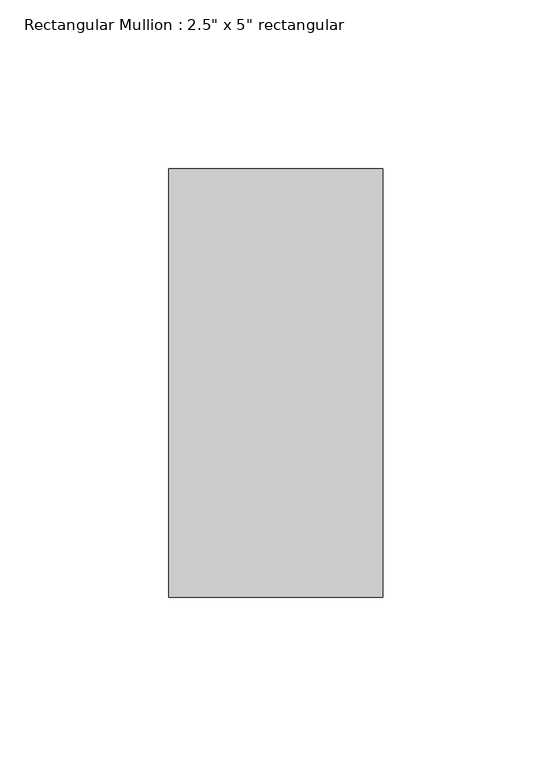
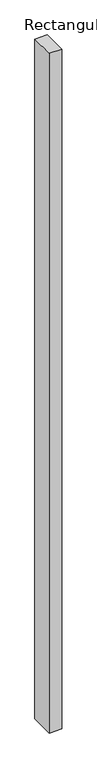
"""IFC4 building model written with IfcOpenShell, lengths in millimetres: member geometry."""

import ifcopenshell
import ifcopenshell.guid

model = None  # the IFC model being written
_history = None  # IfcOwnerHistory: only IFC2X3 demands one
_inside = {}  # id of a spatial element -> (the spatial element, [elements in it])
_under = {}  # id of a project, library or spatial element -> (it, [spatial elements below it])
_declared = {}  # id of a project -> (the project, [libraries it declares])
_typed = {}  # id of a type object -> (the type object, [elements of that type])
_made_of = {}  # id of a material, layer set ... -> (it, [elements and type objects made of it])


def new_model(schema):
    """Start an empty IFC model of exactly this schema.

    Asked for "IFC4X3", IfcOpenShell would pick the latest addendum, in which some entities
    have other attributes; the version numbers below select the first issue.
    IFC2X3 requires an IfcOwnerHistory on every rooted entity: one is made here for all.
    """
    global model, _history
    if schema == "IFC4X3":
        model = ifcopenshell.file(schema_version=(4, 3, 0, 0))
    else:
        model = ifcopenshell.file(schema=schema)
    _inside.clear()
    _under.clear()
    _declared.clear()
    _typed.clear()
    _made_of.clear()
    _history = None
    if model.schema == "IFC2X3":
        org = make("IfcOrganization", Name="unknown")
        user = make(
            "IfcPersonAndOrganization",
            ThePerson=make("IfcPerson", FamilyName="unknown"),
            TheOrganization=org,
        )
        app = make(
            "IfcApplication",
            ApplicationDeveloper=org,
            Version="unknown",
            ApplicationFullName="unknown",
            ApplicationIdentifier="unknown",
        )
        _history = make(
            "IfcOwnerHistory",
            OwningUser=user,
            OwningApplication=app,
            ChangeAction="ADDED",
            CreationDate=0,
        )
    return model


def make(cls, **values):
    """One entity of the class cls with the attributes given. An attribute that is None is left unset."""
    return model.create_entity(
        cls, **{name: value for name, value in values.items() if value is not None}
    )


def rooted(cls, **values):
    """An entity with a GlobalId (a new one), such as an element, a storey or a relation."""
    return make(cls, GlobalId=ifcopenshell.guid.new(), OwnerHistory=_history, **values)


def si_unit(unit_type, name, prefix=None):
    """IfcSIUnit, for example si_unit("LENGTHUNIT", "METRE", prefix="MILLI")."""
    return make("IfcSIUnit", UnitType=unit_type, Prefix=prefix, Name=name)


def assignment(units):
    """IfcUnitAssignment: the units of a project."""
    return None if units is None else make("IfcUnitAssignment", Units=units)


def point(xyz):
    """IfcCartesianPoint."""
    return None if xyz is None else make("IfcCartesianPoint", Coordinates=xyz)


def direction(xyz):
    """IfcDirection."""
    return None if xyz is None else make("IfcDirection", DirectionRatios=xyz)


def frame(location, z_axis=None, x_axis=None):
    """IfcAxis2Placement3D, a coordinate frame: its origin and axes. An axis left out is left unset."""
    return make(
        "IfcAxis2Placement3D",
        Location=point(location),
        Axis=direction(z_axis),
        RefDirection=direction(x_axis),
    )


def origin():
    """The frame at (0, 0, 0) with its axes left unset."""
    return frame((0.0, 0.0, 0.0))


def place(relative_to, where):
    """IfcLocalPlacement: puts the frame where relative to a parent placement (None: the world)."""
    return make(
        "IfcLocalPlacement", PlacementRelTo=relative_to, RelativePlacement=where
    )


def context(
    kind, dimensions, precision=None, world=None, true_north=None, identifier=None
):
    """IfcGeometricRepresentationContext, for example the 3D "Model" context."""
    return make(
        "IfcGeometricRepresentationContext",
        ContextIdentifier=identifier,
        ContextType=kind,
        CoordinateSpaceDimension=dimensions,
        Precision=precision,
        WorldCoordinateSystem=world,
        TrueNorth=true_north,
    )


def project(units=None, contexts=None):
    """IfcProject with its units and contexts."""
    return rooted(
        "IfcProject",
        Name="project",
        RepresentationContexts=contexts,
        UnitsInContext=assignment(units),
    )


def spatial(cls, under=None, at=None, **own):
    """A site, building, storey or space (cls), placed at a placement, below another one or the project."""
    s = rooted(cls, ObjectPlacement=at, **own)
    if under is not None:
        _under.setdefault(under.id(), (under, []))[1].append(s)
    return s


def polyline(points):
    """IfcPolyline through the points."""
    return make("IfcPolyline", Points=[point(p) for p in points])


def outline(outer, holes=None, kind="AREA"):
    """IfcArbitraryClosedProfileDef: a profile drawn as a closed curve; with holes, ...WithVoids."""
    if holes is None:
        return make("IfcArbitraryClosedProfileDef", ProfileType=kind, OuterCurve=outer)
    return make(
        "IfcArbitraryProfileDefWithVoids",
        ProfileType=kind,
        OuterCurve=outer,
        InnerCurves=holes,
    )


def extrude(swept, where, along, depth):
    """IfcExtrudedAreaSolid: the profile swept, set in the frame where, extruded along a direction by depth."""
    return make(
        "IfcExtrudedAreaSolid",
        SweptArea=swept,
        Position=where,
        ExtrudedDirection=direction(along),
        Depth=depth,
    )


def shape(context_of_items, identifier, shape_type, items):
    """IfcShapeRepresentation: the items that make up one representation, for example the "Body"."""
    return make(
        "IfcShapeRepresentation",
        ContextOfItems=context_of_items,
        RepresentationIdentifier=identifier,
        RepresentationType=shape_type,
        Items=items,
    )


def source(mapping_origin, context_of_items, identifier, shape_type, items):
    """IfcRepresentationMap: a shape defined once, which mapped items show again and again."""
    return make(
        "IfcRepresentationMap",
        MappingOrigin=mapping_origin,
        MappedRepresentation=shape(context_of_items, identifier, shape_type, items),
    )


def transform(
    local_origin,
    x_axis=None,
    y_axis=None,
    z_axis=None,
    scale=None,
    scale2=None,
    scale3=None,
    uniform=True,
):
    """IfcCartesianTransformationOperator3D, or its non-uniform kind. x_axis, y_axis, z_axis: its Axis1, 2, 3."""
    if uniform:
        return make(
            "IfcCartesianTransformationOperator3D",
            Axis1=direction(x_axis),
            Axis2=direction(y_axis),
            LocalOrigin=point(local_origin),
            Scale=scale,
            Axis3=direction(z_axis),
        )
    return make(
        "IfcCartesianTransformationOperator3DnonUniform",
        Axis1=direction(x_axis),
        Axis2=direction(y_axis),
        LocalOrigin=point(local_origin),
        Scale=scale,
        Axis3=direction(z_axis),
        Scale2=scale2,
        Scale3=scale3,
    )


def mapped(mapping_source, mapping_target):
    """IfcMappedItem: shows the shape of a source again, moved by a transform."""
    return make(
        "IfcMappedItem", MappingSource=mapping_source, MappingTarget=mapping_target
    )


def made_of(thing, what):
    """Note that an element or type object is made of a material, layer set ...; save() writes the relation."""
    if what is not None:
        _made_of.setdefault(what.id(), (what, []))[1].append(thing)
    return thing


def element(
    cls,
    number,
    at=None,
    inside=None,
    cuts=None,
    type_object=None,
    material=None,
    context=None,
    identifier="Body",
    shape_type=None,
    held_by="IfcProductDefinitionShape",
    body=None,
    shapes=None,
    **own,
):
    """One element of the class cls, such as IfcWall. Its Tag is "e" and its number.

    at: its placement. inside: the storey or other place that contains it. cuts: it is an
    opening in that element (IfcRelVoidsElement). A single representation is given by context,
    identifier, shape_type and body (its items); several are given by shapes. held_by: the class
    of the entity that holds the representations. save() writes the other relations.
    """
    e = rooted(cls, Tag="e%d" % number, ObjectPlacement=at, **own)
    if body is not None:
        shapes = [shape(context, identifier, shape_type, body)]
    if shapes is not None:
        e.Representation = make(held_by, Representations=shapes)
    if inside is not None:
        _inside.setdefault(inside.id(), (inside, []))[1].append(e)
    if cuts is not None:
        rooted(
            "IfcRelVoidsElement", RelatingBuildingElement=cuts, RelatedOpeningElement=e
        )
    if type_object is not None:
        _typed.setdefault(type_object.id(), (type_object, []))[1].append(e)
    return made_of(e, material)


def aggregate(whole, parts):
    """IfcRelAggregates: a whole, such as a stair, and the parts it consists of."""
    return rooted("IfcRelAggregates", RelatingObject=whole, RelatedObjects=parts)


def save(model, path):
    """Write the relations noted so far, then the file.

    IfcRelAggregates (storeys below a building ...), IfcRelContainedInSpatialStructure (elements
    in a storey), IfcRelDefinesByType, IfcRelAssociatesMaterial and IfcRelDeclares: one each for
    every whole, place, type object, material and project.
    """
    for whole, parts in _under.values():
        aggregate(whole, parts)
    for where, things in _inside.values():
        rooted(
            "IfcRelContainedInSpatialStructure",
            RelatedElements=things,
            RelatingStructure=where,
        )
    for kind, things in _typed.values():
        rooted("IfcRelDefinesByType", RelatedObjects=things, RelatingType=kind)
    for what, things in _made_of.values():
        rooted("IfcRelAssociatesMaterial", RelatedObjects=things, RelatingMaterial=what)
    for by, libraries in _declared.values():
        rooted("IfcRelDeclares", RelatingContext=by, RelatedDefinitions=libraries)
    model.write(path)


def member_90793d7c(model_context):
    return source(origin(), model_context, "Body", "SweptSolid", [
        extrude(outline(polyline([(31.75, 63.5), (31.75, -63.5), (-31.75, -63.5), (-31.75, 63.5), (31.75, 63.5)])), frame((0.0, 0.0, -3666.6228811), z_axis=(0.0, 0.0, 1.0), x_axis=(1.0, 0.0, 0.0)), (0.0, 0.0, 1.0), 3666.6228811),
    ])


if __name__ == "__main__":
    model = new_model("IFC4")
    model_context = context("Model", 3, world=origin())
    ifc_project = project(units=[si_unit("LENGTHUNIT", "METRE", prefix="MILLI")], contexts=[model_context])
    site = spatial("IfcSite", under=ifc_project)
    building = spatial("IfcBuilding", under=site)
    placement = place(None, origin())
    member_shape = member_90793d7c(model_context)
    element("IfcMember", 1, ObjectType="Rectangular Mullion : 2.5\" x 5\" rectangular", at=placement, inside=building, context=model_context, shape_type="MappedRepresentation", body=[
        mapped(member_shape, transform((0.0, 0.0, 0.0), x_axis=(1.0, 0.0, 0.0), y_axis=(0.0, 1.0, 0.0), z_axis=(0.0, 0.0, 1.0))),
    ])
    save(model, "model.ifc")
